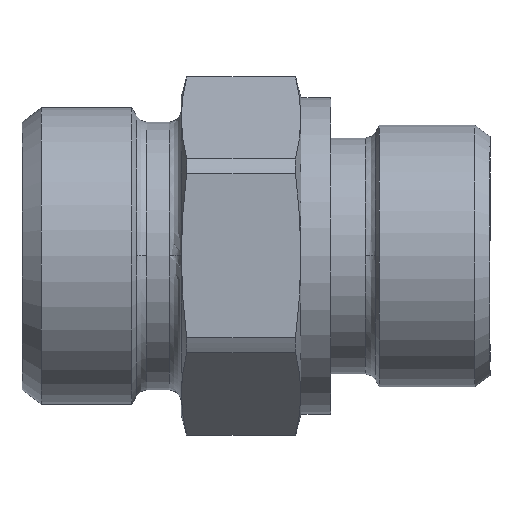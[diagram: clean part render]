
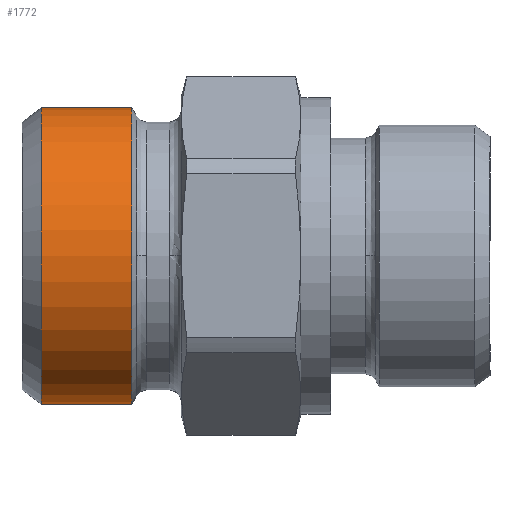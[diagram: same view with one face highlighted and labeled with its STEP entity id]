
A CAD part, top view. The second image highlights one B-rep face of the part: STEP entity #1772.
In plain terms, the highlighted cylindrical face has radius 14.91 mm (diameter 29.82 mm), a partial arc.
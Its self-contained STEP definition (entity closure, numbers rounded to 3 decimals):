
#908=CARTESIAN_POINT('',(0.,-14.91,20.063));
#909=VERTEX_POINT('',#908);
#910=CARTESIAN_POINT('',(0.,-14.91,10.993));
#911=VERTEX_POINT('',#910);
#912=CARTESIAN_POINT('',(0.,-14.91,20.063));
#913=DIRECTION('',(0.0,0.0,-1.0));
#914=VECTOR('',#913,9.07);
#915=LINE('',#912,#914);
#916=EDGE_CURVE('',#909,#911,#915,.T.);
#918=CARTESIAN_POINT('',(0.,14.91,20.063));
#919=VERTEX_POINT('',#918);
#927=CARTESIAN_POINT('',(0.,14.91,10.993));
#928=VERTEX_POINT('',#927);
#929=CARTESIAN_POINT('',(0.,14.91,10.993));
#930=DIRECTION('',(0.0,0.0,1.0));
#931=VECTOR('',#930,9.07);
#932=LINE('',#929,#931);
#933=EDGE_CURVE('',#928,#919,#932,.T.);
#1648=CARTESIAN_POINT('',(0.,0.,10.993));
#1649=DIRECTION('',(0.0,0.0,-1.0));
#1650=DIRECTION('',(0.0,-1.0,0.0));
#1651=AXIS2_PLACEMENT_3D('',#1648,#1649,#1650);
#1652=CIRCLE('',#1651,14.91);
#1653=EDGE_CURVE('',#928,#911,#1652,.T.);
#1749=CARTESIAN_POINT('',(0.,0.,20.063));
#1750=DIRECTION('',(0.0,0.0,-1.0));
#1751=DIRECTION('',(0.0,-1.0,0.0));
#1752=AXIS2_PLACEMENT_3D('',#1749,#1750,#1751);
#1753=CIRCLE('',#1752,14.91);
#1754=EDGE_CURVE('',#919,#909,#1753,.T.);
#1761=CARTESIAN_POINT('',(0.,0.,15.528));
#1762=DIRECTION('',(0.,0.,-1.0));
#1763=DIRECTION('',(0.0,-1.0,0.0));
#1764=AXIS2_PLACEMENT_3D('',#1761,#1762,#1763);
#1765=CYLINDRICAL_SURFACE('',#1764,14.91);
#1766=ORIENTED_EDGE('',*,*,#916,.T.);
#1767=ORIENTED_EDGE('',*,*,#1653,.F.);
#1768=ORIENTED_EDGE('',*,*,#933,.T.);
#1769=ORIENTED_EDGE('',*,*,#1754,.T.);
#1770=EDGE_LOOP('',(#1766,#1767,#1768,#1769));
#1771=FACE_OUTER_BOUND('',#1770,.T.);
#1772=ADVANCED_FACE('',(#1771),#1765,.T.);
